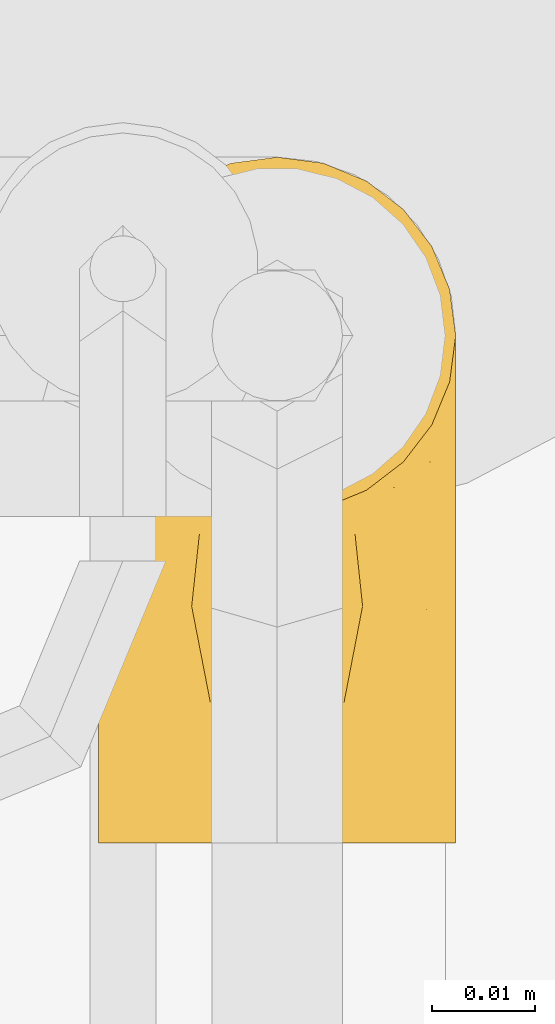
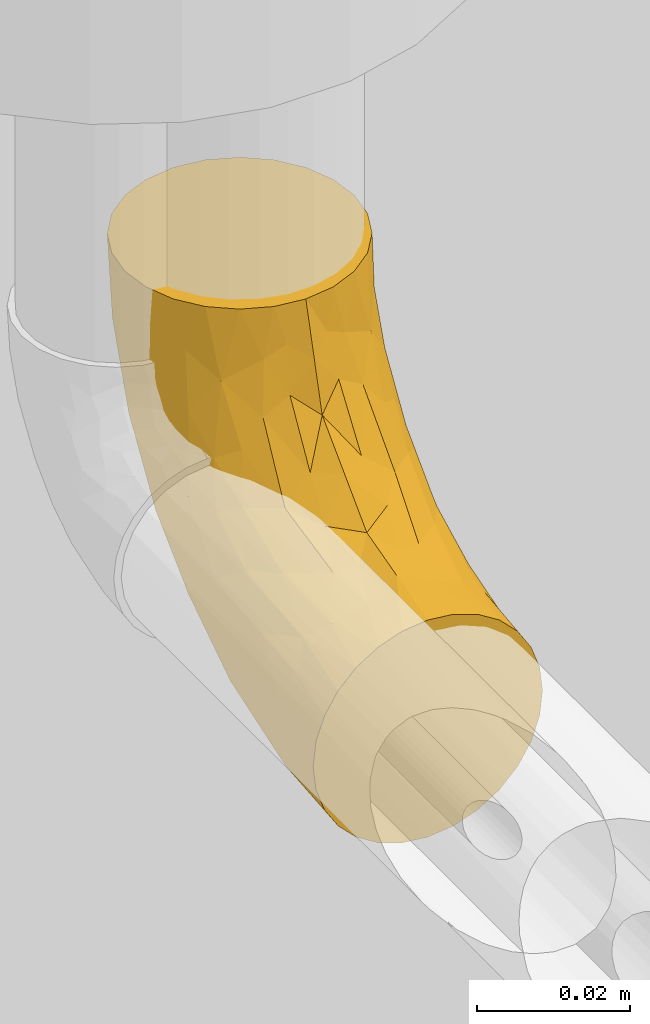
# One storey, part 10 of 32: 1 covering.
"""IFC2X3 building model written with IfcOpenShell, lengths in metres."""

from ifc_helpers import new_model, entity, si_unit, converted_unit, derived_unit, direction, frame, origin, place, context, subcontext, project, spatial, faceted_brep, material, type_object, element, save


model = new_model("IFC2X3")

# Units and contexts
model_context = context("Model", 3, precision=1e-05, world=origin(), true_north=direction((6.123031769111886e-17, 1.0)))
body_context = subcontext(model_context, "Body", "Model", "MODEL_VIEW")
ifc_project = project(units=[si_unit("LENGTHUNIT", "METRE"), si_unit("AREAUNIT", "SQUARE_METRE"), si_unit("VOLUMEUNIT", "CUBIC_METRE"), converted_unit("PLANEANGLEUNIT", "DEGREE", entity("IfcPlaneAngleMeasure", 0.017453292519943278), si_unit("PLANEANGLEUNIT", "RADIAN"), dimensions=[0, 0, 0, 0, 0, 0, 0]), si_unit("MASSUNIT", "GRAM", prefix="KILO"), derived_unit("MASSDENSITYUNIT", [(si_unit("MASSUNIT", "GRAM", prefix="KILO"), 1), (si_unit("LENGTHUNIT", "METRE"), -3)]), derived_unit("IONCONCENTRATIONUNIT", [(si_unit("MASSUNIT", "GRAM", prefix="KILO"), 1), (si_unit("LENGTHUNIT", "METRE"), -3)]), derived_unit("MOMENTOFINERTIAUNIT", [(si_unit("LENGTHUNIT", "METRE"), 4)]), si_unit("TIMEUNIT", "SECOND"), si_unit("FREQUENCYUNIT", "HERTZ"), si_unit("THERMODYNAMICTEMPERATUREUNIT", "DEGREE_CELSIUS"), derived_unit("THERMALTRANSMITTANCEUNIT", [(si_unit("MASSUNIT", "GRAM", prefix="KILO"), 1), (si_unit("THERMODYNAMICTEMPERATUREUNIT", "KELVIN"), -1), (si_unit("TIMEUNIT", "SECOND"), -3)]), derived_unit("THERMALCONDUCTANCEUNIT", [(si_unit("MASSUNIT", "GRAM", prefix="KILO"), 1), (si_unit("THERMODYNAMICTEMPERATUREUNIT", "KELVIN"), -1), (si_unit("TIMEUNIT", "SECOND"), -3), (si_unit("LENGTHUNIT", "METRE"), 1)]), derived_unit("VOLUMETRICFLOWRATEUNIT", [(si_unit("LENGTHUNIT", "METRE", prefix="DECI"), 3), (si_unit("TIMEUNIT", "SECOND"), -1)]), derived_unit("MASSFLOWRATEUNIT", [(si_unit("MASSUNIT", "GRAM", prefix="KILO"), 1), (si_unit("TIMEUNIT", "SECOND"), -1)]), derived_unit("ROTATIONALFREQUENCYUNIT", [(si_unit("TIMEUNIT", "SECOND"), -1)]), si_unit("ELECTRICCURRENTUNIT", "AMPERE"), si_unit("ELECTRICVOLTAGEUNIT", "VOLT"), si_unit("POWERUNIT", "WATT"), si_unit("FORCEUNIT", "NEWTON", prefix="KILO"), si_unit("ILLUMINANCEUNIT", "LUX"), si_unit("LUMINOUSFLUXUNIT", "LUMEN"), si_unit("LUMINOUSINTENSITYUNIT", "CANDELA"), si_unit("ENERGYUNIT", "JOULE"), derived_unit("USERDEFINED", [(si_unit("MASSUNIT", "GRAM", prefix="KILO"), -1), (si_unit("LENGTHUNIT", "METRE"), -2), (si_unit("TIMEUNIT", "SECOND"), 3), (si_unit("LUMINOUSFLUXUNIT", "LUMEN"), 1)]), derived_unit("USERDEFINED", [(si_unit("MASSUNIT", "GRAM", prefix="KILO"), 1), (si_unit("TIMEUNIT", "SECOND"), -3), (si_unit("LENGTHUNIT", "METRE"), 3), (si_unit("ELECTRICCURRENTUNIT", "AMPERE"), -2)]), derived_unit("SOUNDPOWERUNIT", [(si_unit("MASSUNIT", "GRAM", prefix="KILO"), 1), (si_unit("TIMEUNIT", "SECOND"), -3), (si_unit("LENGTHUNIT", "METRE"), 2)]), derived_unit("SOUNDPRESSUREUNIT", [(si_unit("MASSUNIT", "GRAM", prefix="KILO"), 1), (si_unit("LENGTHUNIT", "METRE"), -1), (si_unit("TIMEUNIT", "SECOND"), -2)]), derived_unit("LINEARVELOCITYUNIT", [(si_unit("LENGTHUNIT", "METRE"), 1), (si_unit("TIMEUNIT", "SECOND"), -1)]), si_unit("PRESSUREUNIT", "PASCAL"), derived_unit("USERDEFINED", [(si_unit("MASSUNIT", "GRAM", prefix="KILO"), 1), (si_unit("LENGTHUNIT", "METRE"), -2), (si_unit("TIMEUNIT", "SECOND"), -2)]), derived_unit("LINEARFORCEUNIT", [(si_unit("MASSUNIT", "GRAM", prefix="KILO"), 1), (si_unit("TIMEUNIT", "SECOND"), -2)]), derived_unit("PLANARFORCEUNIT", [(si_unit("MASSUNIT", "GRAM", prefix="KILO"), 1), (si_unit("LENGTHUNIT", "METRE"), -1), (si_unit("TIMEUNIT", "SECOND"), -2)]), derived_unit("SPECIFICHEATCAPACITYUNIT", [(si_unit("THERMODYNAMICTEMPERATUREUNIT", "KELVIN"), -1), (si_unit("LENGTHUNIT", "METRE"), 2), (si_unit("TIMEUNIT", "SECOND"), -2)]), derived_unit("HEATFLUXDENSITYUNIT", [(si_unit("MASSUNIT", "GRAM", prefix="KILO"), 1), (si_unit("TIMEUNIT", "SECOND"), -3)]), derived_unit("HEATINGVALUEUNIT", [(si_unit("LENGTHUNIT", "METRE"), 2), (si_unit("TIMEUNIT", "SECOND"), -2)]), derived_unit("VAPORPERMEABILITYUNIT", [(si_unit("LENGTHUNIT", "METRE"), -1), (si_unit("TIMEUNIT", "SECOND"), 1)]), derived_unit("DYNAMICVISCOSITYUNIT", [(si_unit("MASSUNIT", "GRAM", prefix="KILO"), 1), (si_unit("TIMEUNIT", "SECOND"), -1), (si_unit("LENGTHUNIT", "METRE"), -1)]), derived_unit("THERMALEXPANSIONCOEFFICIENTUNIT", [(si_unit("THERMODYNAMICTEMPERATUREUNIT", "KELVIN"), -1)]), derived_unit("MODULUSOFELASTICITYUNIT", [(si_unit("MASSUNIT", "GRAM", prefix="KILO"), 1), (si_unit("LENGTHUNIT", "METRE"), -1), (si_unit("TIMEUNIT", "SECOND"), -2)]), derived_unit("ISOTHERMALMOISTURECAPACITYUNIT", [(si_unit("MASSUNIT", "GRAM", prefix="KILO"), -1), (si_unit("LENGTHUNIT", "METRE"), 3)]), derived_unit("MOISTUREDIFFUSIVITYUNIT", [(si_unit("TIMEUNIT", "SECOND"), -1), (si_unit("LENGTHUNIT", "METRE"), 2)]), derived_unit("MASSPERLENGTHUNIT", [(si_unit("MASSUNIT", "GRAM", prefix="KILO"), 1), (si_unit("LENGTHUNIT", "METRE"), -1)]), derived_unit("THERMALRESISTANCEUNIT", [(si_unit("MASSUNIT", "GRAM", prefix="KILO"), -1), (si_unit("TIMEUNIT", "SECOND"), 3), (si_unit("THERMODYNAMICTEMPERATUREUNIT", "KELVIN"), 1)]), derived_unit("ACCELERATIONUNIT", [(si_unit("LENGTHUNIT", "METRE"), 1), (si_unit("TIMEUNIT", "SECOND"), -2)]), derived_unit("ANGULARVELOCITYUNIT", [(si_unit("TIMEUNIT", "SECOND"), -1), (si_unit("PLANEANGLEUNIT", "RADIAN"), 1)]), derived_unit("LINEARSTIFFNESSUNIT", [(si_unit("MASSUNIT", "GRAM", prefix="KILO"), 1), (si_unit("TIMEUNIT", "SECOND"), -2)]), derived_unit("WARPINGCONSTANTUNIT", [(si_unit("LENGTHUNIT", "METRE"), 6)]), derived_unit("LINEARMOMENTUNIT", [(si_unit("MASSUNIT", "GRAM", prefix="KILO"), 1), (si_unit("LENGTHUNIT", "METRE"), 1), (si_unit("TIMEUNIT", "SECOND"), -2)]), derived_unit("TORQUEUNIT", [(si_unit("MASSUNIT", "GRAM", prefix="KILO"), 1), (si_unit("LENGTHUNIT", "METRE"), 2), (si_unit("TIMEUNIT", "SECOND"), -2)])], contexts=[model_context])

# Site, building, storey
site_placement = place(None, origin())
site = spatial("IfcSite", under=ifc_project, at=site_placement, Name="Default", CompositionType="ELEMENT")
building_placement = place(site_placement, origin())
building = spatial("IfcBuilding", under=site, at=building_placement, CompositionType="ELEMENT")
storey_placement = place(building_placement, origin())
storey = spatial("IfcBuildingStorey", under=building, at=storey_placement, Name="Niveau 0", CompositionType="ELEMENT", Elevation=-1.949160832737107e-14)

# Covering
ifc_material = material(Name="Matériau du rendu 255-255-255")
covering_type = type_object("IfcCoveringType", Name="Isolation des canalisations:Par défaut", PredefinedType="INSULATION")
covering_placement = place(storey_placement, frame((-13.579246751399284, 2.7346312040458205, -0.43394527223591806)))
element("IfcCovering", 1, at=covering_placement, inside=storey, type_object=covering_type, material=ifc_material, Name="Isolation des canalisations:Par défaut", ObjectType="Isolation des canalisations:Par défaut", PredefinedType="INSULATION", context=body_context, shape_type="Brep", body=[
    faceted_brep([(0.0015952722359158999, 0.0015952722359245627, 0.018945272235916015), (0.0020307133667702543, 0.0015952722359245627, 0.01508260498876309), (0.003314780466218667, 0.0015952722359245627, 0.011414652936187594), (0.005382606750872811, 0.0015952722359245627, 0.00812507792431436), (0.008130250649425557, 0.0015952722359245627, 0.005378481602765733), (0.01141990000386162, 0.0015952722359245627, 0.0033122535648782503), (0.015086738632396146, 0.0015952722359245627, 0.0020297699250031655), (0.018945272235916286, 0.0015952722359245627, 0.0015952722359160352), (0.022807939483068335, 0.0015952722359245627, 0.0020307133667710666), (0.026475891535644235, 0.0015952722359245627, 0.003314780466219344), (0.029765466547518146, 0.0015952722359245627, 0.005382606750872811), (0.0325120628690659, 0.0015952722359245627, 0.008130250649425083), (0.03457829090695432, 0.0015952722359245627, 0.011419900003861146), (0.03586077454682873, 0.0015952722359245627, 0.015086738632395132), (0.03629527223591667, 0.0015952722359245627, 0.01894527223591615), (0.03585983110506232, 0.0015952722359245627, 0.022807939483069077), (0.03457576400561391, 0.0015952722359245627, 0.026475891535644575), (0.032507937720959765, 0.0015952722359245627, 0.029765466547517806), (0.029760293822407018, 0.0015952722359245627, 0.03251206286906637), (0.026470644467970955, 0.0015952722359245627, 0.03457829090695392), (0.022803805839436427, 0.0015952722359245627, 0.035860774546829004), (0.018945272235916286, 0.0015952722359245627, 0.03629527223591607), (0.01508260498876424, 0.0015952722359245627, 0.03585983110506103), (0.01141465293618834, 0.0015952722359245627, 0.034575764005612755), (0.008125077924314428, 0.0015952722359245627, 0.032507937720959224), (0.005378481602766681, 0.0015952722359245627, 0.029760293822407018), (0.0033122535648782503, 0.0015952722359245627, 0.026470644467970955), (0.002029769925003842, 0.0015952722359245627, 0.022803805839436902), (0.02343578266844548, 0.034136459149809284, 0.0682452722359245), (0.027620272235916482, 0.0358697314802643, 0.0682452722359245), (0.03121357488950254, 0.03862696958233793, 0.0682452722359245), (0.033970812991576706, 0.04222027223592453, 0.0682452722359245), (0.03570408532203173, 0.04640476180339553, 0.06824527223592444), (0.03629527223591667, 0.05089527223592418, 0.06824527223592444), (0.03570408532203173, 0.05538578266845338, 0.06824527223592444), (0.033970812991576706, 0.05957027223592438, 0.06824527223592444), (0.03121357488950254, 0.06316357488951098, 0.06824527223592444), (0.027620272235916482, 0.0659208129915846, 0.06824527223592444), (0.02343578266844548, 0.06765408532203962, 0.06824527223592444), (0.018945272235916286, 0.06824527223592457, 0.06824527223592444), (0.014454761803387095, 0.06765408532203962, 0.06824527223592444), (0.010270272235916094, 0.0659208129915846, 0.06824527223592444), (0.006676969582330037, 0.06316357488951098, 0.06824527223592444), (0.0039197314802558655, 0.05957027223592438, 0.06824527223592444), (0.0021864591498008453, 0.05538578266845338, 0.06824527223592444), (0.0015952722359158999, 0.05089527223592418, 0.06824527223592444), (0.0021864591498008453, 0.04640476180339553, 0.06824527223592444), (0.0039197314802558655, 0.04222027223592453, 0.0682452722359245), (0.006676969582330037, 0.03862696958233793, 0.0682452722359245), (0.010270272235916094, 0.0358697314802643, 0.0682452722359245), (0.014454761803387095, 0.034136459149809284, 0.0682452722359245), (0.018945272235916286, 0.03354527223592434, 0.0682452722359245), (0.006555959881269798, 0.045473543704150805, 0.025229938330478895), (0.005439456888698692, 0.028960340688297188, 0.014634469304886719), (0.00410347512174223, 0.03860008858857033, 0.02321338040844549), (0.015741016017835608, 0.06452260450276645, 0.04720534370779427), (0.018945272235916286, 0.06488216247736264, 0.05133777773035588), (0.018945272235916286, 0.06317184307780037, 0.04273942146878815), (0.009074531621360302, 0.060112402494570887, 0.04341175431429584), (0.007207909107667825, 0.05407956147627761, 0.03509443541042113), (0.005147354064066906, 0.05563373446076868, 0.0425917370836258), (0.012649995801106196, 0.0650644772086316, 0.0521931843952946), (0.008689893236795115, 0.0638530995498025, 0.05683592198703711), (0.0022082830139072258, 0.036117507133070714, 0.026889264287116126), (0.0015952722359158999, 0.03645563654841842, 0.03338490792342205), (0.0019132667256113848, 0.04493558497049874, 0.03842805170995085), (0.007137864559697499, 0.017827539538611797, 0.008394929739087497), (0.008000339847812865, 0.03656447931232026, 0.01612762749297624), (0.0020764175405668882, 0.0522548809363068, 0.051492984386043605), (0.0034977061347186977, 0.0531651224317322, 0.04350091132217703), (0.014726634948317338, 0.033147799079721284, 0.010128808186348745), (0.013536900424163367, 0.017794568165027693, 0.0044854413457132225), (0.010439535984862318, 0.028932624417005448, 0.009911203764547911), (0.0056276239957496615, 0.05983622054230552, 0.05216380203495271), (0.0015952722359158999, 0.020461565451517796, 0.0226980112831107), (0.0015952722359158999, 0.02845860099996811, 0.02804145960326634), (0.0031065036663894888, 0.056776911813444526, 0.056672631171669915), (0.013931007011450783, 0.05674295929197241, 0.03215079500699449), (0.015117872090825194, 0.04878253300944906, 0.021782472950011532), (0.011641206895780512, 0.04492176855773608, 0.01974054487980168), (0.018945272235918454, 0.014348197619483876, 0.0041319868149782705), (0.010347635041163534, 0.054422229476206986, 0.03146481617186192), (0.013282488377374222, 0.0617371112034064, 0.04179852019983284), (0.010029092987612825, 0.013845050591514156, 0.005241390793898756), (0.018945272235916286, 0.027101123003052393, 0.006668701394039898), (0.001595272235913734, 0.010049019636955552, 0.02062682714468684), (0.0019756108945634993, 0.018328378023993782, 0.018047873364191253), (0.00457952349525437, 0.013919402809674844, 0.010517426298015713), (0.003041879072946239, 0.04531324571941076, 0.03287299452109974), (0.002864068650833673, 0.013415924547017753, 0.013698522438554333), (0.004804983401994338, 0.049793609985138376, 0.03360758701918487), (0.0030930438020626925, 0.02593752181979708, 0.017422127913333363), (0.0015952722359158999, 0.04179908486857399, 0.041381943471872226), (0.0015952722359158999, 0.04714253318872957, 0.04937897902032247), (0.0015952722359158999, 0.011028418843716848, 0.020821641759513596), (0.018945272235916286, 0.03791253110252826, 0.01389265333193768), (0.009051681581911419, 0.04730278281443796, 0.02408908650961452), (0.018945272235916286, 0.05594789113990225, 0.03192801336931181), (0.0015952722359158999, 0.04921371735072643, 0.05979152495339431), (0.018945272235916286, 0.04872393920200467, 0.021116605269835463), (0.009148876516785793, 0.009713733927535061, 0.03422008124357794), (0.0023814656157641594, 0.044295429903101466, 0.05707755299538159), (0.00817631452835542, 0.031677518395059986, 0.049027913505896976), (0.007611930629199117, 0.03614190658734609, 0.057554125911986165), (0.005320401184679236, 0.03398742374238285, 0.047329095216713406), (0.0019279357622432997, 0.022256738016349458, 0.027237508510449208), (0.0021362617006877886, 0.011904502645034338, 0.024440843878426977), (0.003247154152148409, 0.018049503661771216, 0.02969890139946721), (0.001986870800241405, 0.042392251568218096, 0.047797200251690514), (0.004104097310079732, 0.038594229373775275, 0.05223797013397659), (0.01590243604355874, 0.01425198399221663, 0.03861647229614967), (0.014076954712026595, 0.00874835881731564, 0.036391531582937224), (0.018945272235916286, 0.009879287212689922, 0.038514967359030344), (0.004444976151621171, 0.024331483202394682, 0.035611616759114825), (0.002253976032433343, 0.02829579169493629, 0.032564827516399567), (0.004675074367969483, 0.040346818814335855, 0.060953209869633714), (0.015256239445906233, 0.03131802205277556, 0.0554832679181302), (0.018945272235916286, 0.03132557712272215, 0.05996125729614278), (0.015925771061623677, 0.03324811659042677, 0.06225454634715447), (0.005932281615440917, 0.011869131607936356, 0.031842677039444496), (0.007500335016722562, 0.01964354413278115, 0.03679589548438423), (0.012735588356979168, 0.03380205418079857, 0.060610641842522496), (0.011387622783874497, 0.03166546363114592, 0.053069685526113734), (0.003758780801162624, 0.009336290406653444, 0.02807438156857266), (0.010632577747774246, 0.024586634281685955, 0.0431010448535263), (0.006451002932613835, 0.028426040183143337, 0.04238875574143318), (0.018945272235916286, 0.017570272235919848, 0.04057576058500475), (0.015064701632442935, 0.02568209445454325, 0.046591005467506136), (0.018945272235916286, 0.029264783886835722, 0.05227027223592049), (0.0025144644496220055, 0.035770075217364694, 0.040965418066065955), (0.01245587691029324, 0.015197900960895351, 0.03794961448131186), (0.014233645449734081, 0.02034532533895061, 0.041574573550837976), (0.018945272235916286, 0.023417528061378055, 0.04642301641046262), (0.004040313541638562, 0.031139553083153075, 0.04066149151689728), (0.03027861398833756, 0.036141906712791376, 0.05755412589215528), (0.028736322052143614, 0.009714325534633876, 0.03422398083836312), (0.03195404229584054, 0.01187480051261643, 0.03184924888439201), (0.021964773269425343, 0.03324811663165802, 0.062254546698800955), (0.03595983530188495, 0.022246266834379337, 0.027247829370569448), (0.03629527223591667, 0.02845860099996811, 0.028041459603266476), (0.03562917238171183, 0.02829082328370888, 0.032593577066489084), (0.030383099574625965, 0.019644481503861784, 0.03680362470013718), (0.03143954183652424, 0.028426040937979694, 0.042388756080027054), (0.03385103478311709, 0.03113147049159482, 0.0406508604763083), (0.032573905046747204, 0.03398689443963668, 0.047319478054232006), (0.023805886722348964, 0.0087453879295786, 0.03639317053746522), (0.03537608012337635, 0.03577007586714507, 0.0409654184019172), (0.035903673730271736, 0.042392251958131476, 0.047797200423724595), (0.03378644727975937, 0.03859422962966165, 0.05223797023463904), (0.03550907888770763, 0.04429543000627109, 0.057077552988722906), (0.03629527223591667, 0.049213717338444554, 0.0597915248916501), (0.034129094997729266, 0.009343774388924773, 0.028080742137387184), (0.035753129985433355, 0.011908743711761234, 0.02444647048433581), (0.03464128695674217, 0.018062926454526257, 0.029709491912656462), (0.025154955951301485, 0.033802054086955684, 0.06061064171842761), (0.03321547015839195, 0.0403468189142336, 0.060953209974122), (0.03343785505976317, 0.02431581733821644, 0.035614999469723), (0.022634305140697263, 0.03131802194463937, 0.055483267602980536), (0.02365546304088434, 0.020355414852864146, 0.041582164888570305), (0.027243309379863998, 0.024604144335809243, 0.043127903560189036), (0.02282025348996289, 0.025697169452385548, 0.046609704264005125), (0.021984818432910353, 0.014251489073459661, 0.038616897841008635), (0.02542902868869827, 0.015188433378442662, 0.037947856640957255), (0.026502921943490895, 0.0316654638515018, 0.05306968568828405), (0.03629527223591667, 0.010049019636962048, 0.020626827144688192), (0.03629527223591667, 0.011028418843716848, 0.02082164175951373), (0.03629527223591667, 0.020461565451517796, 0.022698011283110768), (0.03629527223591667, 0.04714253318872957, 0.04937897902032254), (0.03629527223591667, 0.04179908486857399, 0.041381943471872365), (0.02971725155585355, 0.031684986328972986, 0.049035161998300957), (0.03629527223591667, 0.03645563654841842, 0.03338490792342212), (0.03274603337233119, 0.055639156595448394, 0.042611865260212), (0.030676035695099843, 0.05407565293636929, 0.03507690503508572), (0.028816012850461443, 0.060112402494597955, 0.043411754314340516), (0.022149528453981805, 0.06452260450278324, 0.047205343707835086), (0.02460805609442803, 0.06173711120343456, 0.041798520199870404), (0.02395953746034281, 0.05674295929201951, 0.032150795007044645), (0.027456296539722, 0.028924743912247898, 0.009910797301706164), (0.024358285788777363, 0.017792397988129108, 0.004486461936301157), (0.023166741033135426, 0.033158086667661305, 0.010135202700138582), (0.032454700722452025, 0.028960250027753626, 0.014639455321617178), (0.03379273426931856, 0.0386110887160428, 0.023234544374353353), (0.03479992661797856, 0.025917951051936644, 0.017418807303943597), (0.03568426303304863, 0.03608269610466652, 0.02686977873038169), (0.03581412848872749, 0.052257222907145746, 0.05150008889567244), (0.034392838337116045, 0.05316512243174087, 0.04350091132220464), (0.03308122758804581, 0.04981329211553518, 0.033624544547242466), (0.034783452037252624, 0.05677863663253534, 0.05667444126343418), (0.025240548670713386, 0.0650644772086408, 0.052193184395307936), (0.02786657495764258, 0.013847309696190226, 0.005244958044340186), (0.02920065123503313, 0.063853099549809, 0.056835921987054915), (0.027538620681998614, 0.05444182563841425, 0.03148869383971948), (0.032262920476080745, 0.05983622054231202, 0.05216380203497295), (0.03331443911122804, 0.013918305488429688, 0.010522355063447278), (0.030757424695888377, 0.017824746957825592, 0.008398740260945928), (0.03591577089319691, 0.018325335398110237, 0.01805100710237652), (0.030163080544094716, 0.028937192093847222, 0.012003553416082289), (0.03133458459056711, 0.04547354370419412, 0.025229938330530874), (0.03503855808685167, 0.013157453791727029, 0.013673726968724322), (0.022776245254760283, 0.04876971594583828, 0.021770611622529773), (0.026257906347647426, 0.044923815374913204, 0.019747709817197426), (0.035975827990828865, 0.044940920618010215, 0.038422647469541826), (0.034842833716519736, 0.045288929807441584, 0.032821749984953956), (0.028840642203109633, 0.047337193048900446, 0.024126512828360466), (0.028622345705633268, 0.038303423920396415, 0.016184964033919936)], [[[0, 1, 2, 3, 4, 5, 6, 7, 8, 9, 10, 11, 12, 13, 14, 15, 16, 17, 18, 19, 20, 21, 22, 23, 24, 25, 26, 27]], [[28, 29, 30, 31, 32, 33, 34, 35, 36, 37, 38, 39, 40, 41, 42, 43, 44, 45, 46, 47, 48, 49, 50, 51]], [[52, 53, 54]], [[55, 56, 57]], [[58, 59, 60]], [[61, 58, 62]], [[63, 64, 65]], [[61, 41, 40]], [[66, 53, 67]], [[68, 69, 65]], [[70, 71, 72]], [[62, 73, 42]], [[63, 74, 75, 64]], [[45, 44, 68]], [[69, 68, 76]], [[77, 78, 79]], [[42, 73, 43]], [[80, 7, 6]], [[58, 81, 59]], [[61, 55, 82]], [[71, 5, 83]], [[84, 71, 70]], [[83, 5, 4]], [[6, 71, 80]], [[71, 84, 80]], [[77, 55, 57]], [[5, 71, 6]], [[3, 66, 4]], [[1, 0, 85]], [[63, 86, 74]], [[66, 87, 53]], [[62, 42, 41]], [[63, 65, 88]], [[1, 86, 89]], [[40, 56, 55]], [[73, 60, 76]], [[83, 72, 71]], [[90, 59, 52]], [[40, 55, 61]], [[87, 66, 3]], [[4, 66, 83]], [[87, 3, 2]], [[72, 83, 66]], [[91, 89, 86]], [[53, 87, 91]], [[54, 53, 91]], [[67, 53, 52]], [[63, 54, 91]], [[54, 88, 90]], [[91, 87, 89]], [[65, 64, 92, 93]], [[86, 63, 91]], [[86, 85, 94, 74]], [[1, 85, 86]], [[70, 72, 79]], [[78, 95, 70]], [[67, 79, 72]], [[59, 81, 96]], [[40, 39, 56]], [[77, 57, 97]], [[82, 55, 77]], [[87, 2, 89]], [[1, 89, 2]], [[81, 82, 77]], [[58, 61, 82]], [[68, 65, 93]], [[88, 65, 69]], [[68, 93, 98, 45]], [[76, 68, 44]], [[90, 88, 69]], [[54, 63, 88]], [[60, 90, 69]], [[54, 90, 52]], [[59, 90, 60]], [[82, 81, 58]], [[77, 79, 81]], [[96, 81, 79]], [[44, 43, 76]], [[73, 76, 43]], [[61, 62, 41]], [[73, 62, 58]], [[76, 60, 69]], [[60, 73, 58]], [[70, 79, 78]], [[95, 84, 70]], [[67, 52, 96]], [[78, 97, 99]], [[66, 67, 72]], [[97, 78, 77]], [[78, 99, 95]], [[67, 96, 79]], [[59, 96, 52]], [[100, 24, 23]], [[93, 101, 98]], [[102, 103, 104]], [[98, 101, 46]], [[105, 106, 107]], [[108, 109, 101]], [[110, 111, 112]], [[92, 108, 93]], [[113, 114, 107]], [[47, 115, 48]], [[116, 117, 118]], [[49, 48, 103]], [[119, 100, 120]], [[100, 119, 24]], [[121, 122, 116]], [[119, 120, 113]], [[103, 122, 121]], [[115, 103, 48]], [[119, 107, 123]], [[123, 26, 25]], [[118, 51, 50]], [[26, 106, 27]], [[106, 74, 94]], [[46, 101, 47]], [[115, 101, 109]], [[123, 106, 26]], [[124, 125, 120]], [[22, 21, 112]], [[119, 25, 24]], [[110, 112, 126]], [[111, 23, 22]], [[114, 75, 105]], [[116, 127, 128]], [[122, 127, 116]], [[64, 129, 92]], [[106, 94, 27]], [[111, 100, 23]], [[109, 129, 104]], [[130, 124, 120]], [[130, 120, 100]], [[120, 125, 113]], [[130, 110, 131]], [[102, 124, 122]], [[121, 118, 50]], [[27, 94, 85, 0]], [[128, 117, 116]], [[127, 122, 124]], [[131, 124, 130]], [[131, 132, 127]], [[119, 123, 25]], [[106, 123, 107]], [[108, 101, 93]], [[113, 107, 119]], [[129, 133, 104]], [[125, 133, 113]], [[113, 133, 114]], [[129, 64, 114]], [[75, 74, 105]], [[92, 129, 108]], [[109, 108, 129]], [[46, 45, 98]], [[111, 110, 130]], [[126, 131, 110]], [[124, 131, 127]], [[111, 130, 100]], [[112, 111, 22]], [[50, 49, 121]], [[103, 121, 49]], [[101, 115, 47]], [[103, 115, 109]], [[116, 118, 121]], [[51, 118, 117]], [[133, 125, 104]], [[114, 133, 129]], [[102, 104, 125]], [[103, 109, 104]], [[124, 102, 125]], [[103, 102, 122]], [[114, 64, 75]], [[106, 105, 74]], [[107, 114, 105]], [[132, 131, 126]], [[132, 128, 127]], [[30, 29, 134]], [[135, 18, 136]], [[51, 117, 137]], [[138, 139, 140]], [[141, 135, 136]], [[142, 143, 144]], [[145, 112, 20]], [[146, 147, 148]], [[149, 150, 32]], [[151, 152, 153]], [[134, 29, 154]], [[155, 31, 30]], [[18, 135, 19]], [[149, 32, 31]], [[156, 141, 136]], [[157, 117, 128]], [[158, 159, 160]], [[126, 112, 161]], [[161, 145, 162]], [[155, 149, 31]], [[154, 28, 137]], [[17, 151, 136]], [[18, 17, 136]], [[145, 19, 135]], [[135, 141, 162]], [[17, 16, 151]], [[16, 15, 152]], [[146, 144, 143]], [[143, 140, 146]], [[159, 163, 160]], [[15, 14, 164, 165]], [[15, 165, 152]], [[138, 152, 166]], [[141, 159, 162]], [[155, 134, 148]], [[112, 21, 20]], [[167, 147, 168]], [[144, 169, 142]], [[145, 135, 162]], [[156, 136, 153]], [[141, 142, 159]], [[169, 159, 142]], [[157, 160, 163]], [[157, 128, 160]], [[166, 152, 165]], [[154, 137, 157]], [[157, 163, 154]], [[158, 132, 126]], [[126, 161, 158]], [[152, 151, 16]], [[136, 151, 153]], [[168, 146, 170]], [[149, 147, 167]], [[156, 142, 141]], [[140, 156, 153]], [[143, 142, 156]], [[140, 153, 138]], [[170, 146, 140]], [[148, 147, 149]], [[146, 168, 147]], [[150, 149, 167]], [[150, 33, 32]], [[158, 161, 162]], [[159, 158, 162]], [[160, 132, 158]], [[112, 145, 161]], [[19, 145, 20]], [[134, 154, 163]], [[29, 28, 154]], [[134, 155, 30]], [[149, 155, 148]], [[51, 137, 28]], [[157, 137, 117]], [[140, 143, 156]], [[144, 146, 148]], [[148, 134, 144]], [[169, 134, 163]], [[134, 169, 144]], [[159, 169, 163]], [[139, 138, 166]], [[139, 170, 140]], [[152, 138, 153]], [[160, 128, 132]], [[171, 172, 173]], [[174, 175, 176]], [[177, 178, 179]], [[180, 181, 182]], [[183, 182, 181]], [[184, 33, 150, 167]], [[171, 185, 186]], [[184, 187, 34]], [[174, 38, 188]], [[177, 189, 178]], [[36, 190, 37]], [[176, 175, 191]], [[192, 36, 35]], [[37, 190, 188]], [[174, 176, 57]], [[193, 11, 194]], [[183, 166, 195]], [[175, 174, 188]], [[195, 166, 165, 164]], [[56, 174, 57]], [[10, 194, 11]], [[196, 197, 180]], [[179, 178, 84]], [[12, 193, 198]], [[11, 193, 12]], [[190, 192, 173]], [[179, 95, 199]], [[189, 9, 178]], [[193, 180, 182]], [[9, 189, 10]], [[8, 80, 178]], [[177, 179, 200]], [[201, 170, 183]], [[177, 194, 189]], [[37, 188, 38]], [[178, 9, 8]], [[194, 177, 196]], [[164, 14, 13]], [[187, 192, 35]], [[167, 201, 184]], [[194, 10, 189]], [[180, 193, 194]], [[198, 182, 195]], [[196, 180, 194]], [[181, 180, 197]], [[185, 202, 186]], [[201, 167, 168, 170]], [[201, 202, 185]], [[183, 170, 139, 166]], [[195, 182, 183]], [[164, 13, 195]], [[198, 13, 12]], [[199, 95, 99]], [[200, 199, 176]], [[191, 173, 172]], [[200, 203, 204]], [[174, 56, 38]], [[56, 39, 38]], [[199, 97, 176]], [[182, 198, 193]], [[13, 198, 195]], [[188, 173, 175]], [[191, 175, 173]], [[202, 201, 183]], [[184, 201, 185]], [[187, 184, 185]], [[33, 184, 34]], [[183, 181, 202]], [[186, 181, 197]], [[181, 186, 202]], [[186, 197, 172]], [[191, 203, 200]], [[171, 173, 192]], [[203, 172, 197]], [[200, 176, 191]], [[187, 185, 171]], [[35, 34, 187]], [[192, 190, 36]], [[188, 190, 173]], [[172, 171, 186]], [[187, 171, 192]], [[179, 84, 95]], [[80, 8, 7]], [[80, 84, 178]], [[97, 57, 176]], [[177, 200, 204]], [[179, 199, 200]], [[97, 199, 99]], [[172, 203, 191]], [[204, 197, 196]], [[197, 204, 203]], [[177, 204, 196]]]),
])

save(model, "model.ifc")
